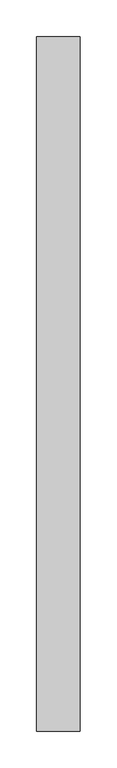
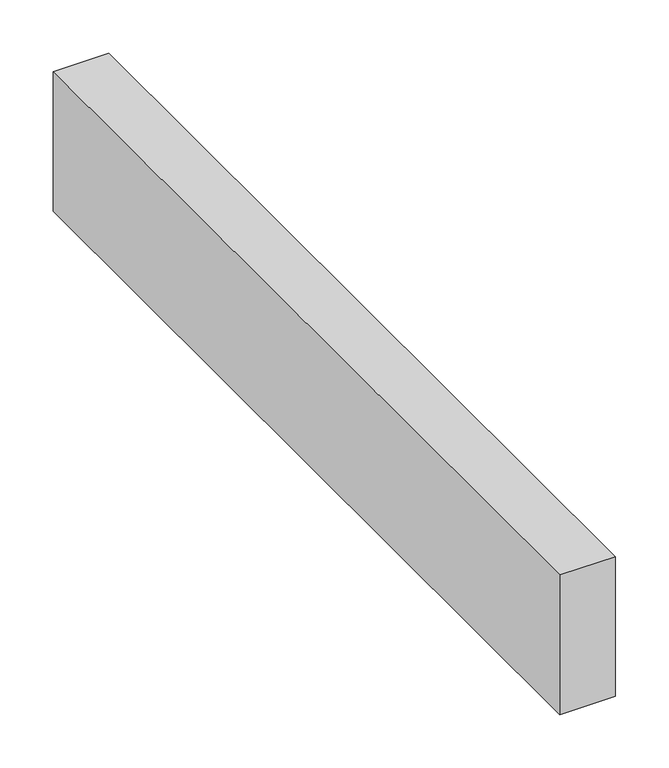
"""IFC4 building model written with IfcOpenShell, lengths in millimetres: proxy geometry, Modelos genéricos 127 : Modelos genéricos 9."""

from ifc_helpers import new_model, si_unit, frame, origin, place, context, project, spatial, polyline, outline, extrude, source, transform, mapped, element, save


def generic_models_a589a654(model_context):
    return source(origin(), model_context, "Body", "SweptSolid", [
        extrude(outline(polyline([(9343.4472467, 2418.6238165), (9343.4472467, 1468.6238165), (9283.4472467, 1468.6238165), (9283.4472467, 2418.6238165), (9343.4472467, 2418.6238165)])), frame((0.0, 0.0, 3000.0), z_axis=(0.0, 0.0, 1.0), x_axis=(1.0, 0.0, 0.0)), (0.0, 0.0, 1.0), 160.0),
    ])


if __name__ == "__main__":
    model = new_model("IFC4")
    model_context = context("Model", 3, world=origin())
    ifc_project = project(units=[si_unit("LENGTHUNIT", "METRE", prefix="MILLI")], contexts=[model_context])
    site = spatial("IfcSite", under=ifc_project)
    building = spatial("IfcBuilding", under=site)
    placement = place(None, origin())
    generic_models_shape = generic_models_a589a654(model_context)
    element("IfcBuildingElementProxy", 1, Name="Modelos genéricos 127 : Modelos genéricos 9", ObjectType="Modelos genéricos 127 : Modelos genéricos 9", at=placement, inside=building, context=model_context, shape_type="MappedRepresentation", body=[
        mapped(generic_models_shape, transform((0.0, 0.0, 0.0), x_axis=(1.0, 0.0, 0.0), y_axis=(0.0, 1.0, 0.0), z_axis=(0.0, 0.0, 1.0))),
    ])
    save(model, "model.ifc")
